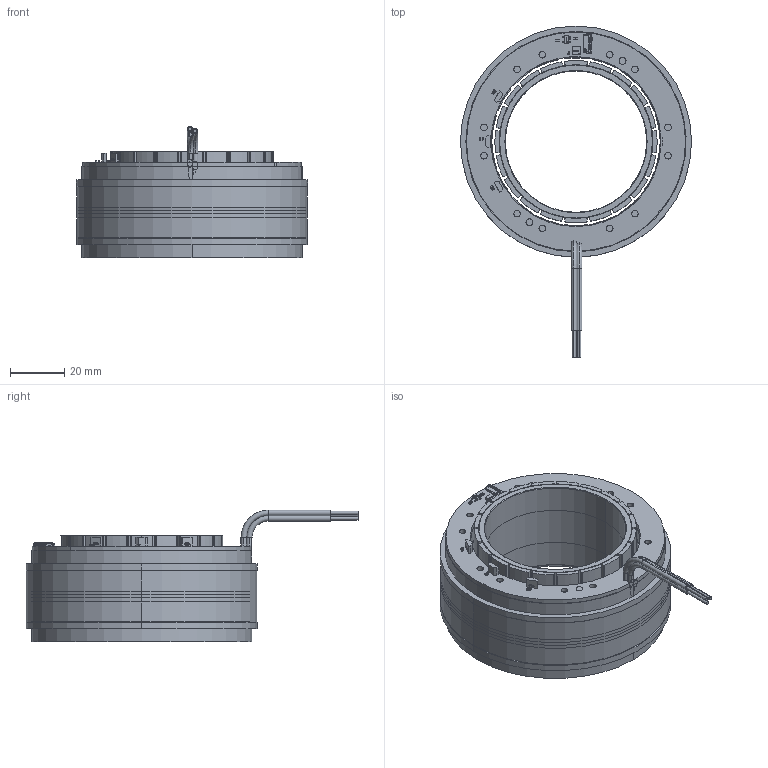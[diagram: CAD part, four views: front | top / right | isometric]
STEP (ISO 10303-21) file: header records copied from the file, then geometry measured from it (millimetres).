
FILE_DESCRIPTION(('STEP AP214'),'1');
FILE_NAME('123.stp','2025-04-03T07:22:31',(' '),(' '),'Spatial InterOp 3D',' ',' ');
FILE_SCHEMA(('AUTOMOTIVE_DESIGN { 1 0 10303 214 1 1 1 1 }'));
Length unit declared in the file: metre
Products named in the file (1): NONE
Bounding box: 85 x 122.08 x 48.44 mm (x, y, z)
Surface area: 64829.3 mm2 (no closed solid volume)
Topology: 0 solids, 187 shells, 766 faces, 4597 edges, 4002 vertices
Faces by surface type: plane 380, cylinder 361, cone 12, torus 11, bspline 2
Entity records: 50676 total; most frequent: CARTESIAN_POINT 13622, DIRECTION 7340, ORIENTED_EDGE 5641, EDGE_CURVE 4597, VERTEX_POINT 4002, LINE 2894, VECTOR 2894, AXIS2_PLACEMENT_3D 2223
